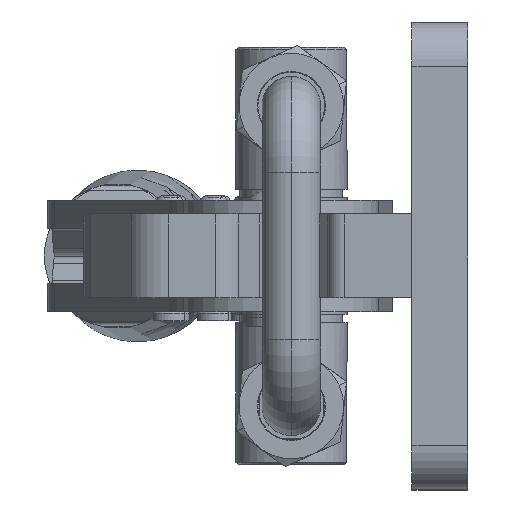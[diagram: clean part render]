
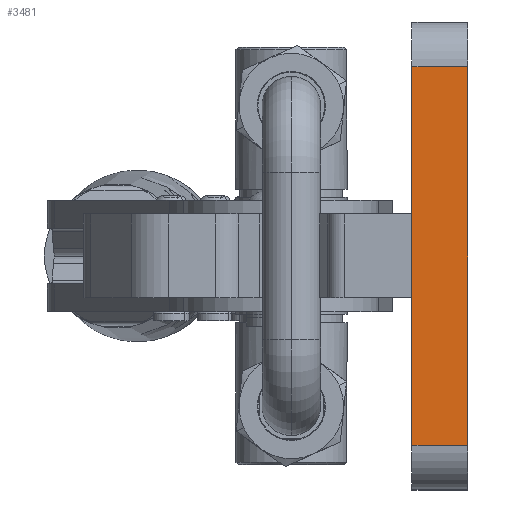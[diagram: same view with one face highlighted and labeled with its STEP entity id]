
A CAD part, left-side view. The second image highlights one B-rep face of the part: STEP entity #3481.
In plain terms, the highlighted planar face has unit normal (-1, 0, 0) as drawn and (1, 0, 0) by its records, which use the part's own axes.
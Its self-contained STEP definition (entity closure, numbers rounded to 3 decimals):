
#28 = ORIENTED_EDGE ( 'NONE', *, *, #15205, .T. ) ;
#2922 = DIRECTION ( 'NONE',  ( 0., 1., 0. ) ) ;
#3481 = ADVANCED_FACE ( 'NONE', ( #30391 ), #30574, .F. ) ;
#4077 = DIRECTION ( 'NONE',  ( -1., 0., 0. ) ) ;
#4454 = CARTESIAN_POINT ( 'NONE',  ( 31., 10., -42. ) ) ;
#4936 = CARTESIAN_POINT ( 'NONE',  ( 31., 10., -34. ) ) ;
#6020 = LINE ( 'NONE', #8743, #36358 ) ;
#8743 = CARTESIAN_POINT ( 'NONE',  ( 31., 10., -34. ) ) ;
#9169 = CARTESIAN_POINT ( 'NONE',  ( 31., 10., 34. ) ) ;
#13743 = ORIENTED_EDGE ( 'NONE', *, *, #26971, .F. ) ;
#13835 = EDGE_LOOP ( 'NONE', ( #28, #17718, #13743, #23004 ) ) ;
#15205 = EDGE_CURVE ( 'NONE', #29533, #29372, #27505, .T. ) ;
#15354 = LINE ( 'NONE', #9169, #33334 ) ;
#15458 = CARTESIAN_POINT ( 'NONE',  ( 31., 0., -34. ) ) ;
#15881 = DIRECTION ( 'NONE',  ( 0., 0., 1. ) ) ;
#16414 = VECTOR ( 'NONE', #24605, 1000. ) ;
#16957 = AXIS2_PLACEMENT_3D ( 'NONE', #4454, #4077, #15881 ) ;
#17718 = ORIENTED_EDGE ( 'NONE', *, *, #28929, .T. ) ;
#20275 = VERTEX_POINT ( 'NONE', #4936 ) ;
#20510 = LINE ( 'NONE', #20688, #36770 ) ;
#20688 = CARTESIAN_POINT ( 'NONE',  ( 31., 10., -42. ) ) ;
#21932 = CARTESIAN_POINT ( 'NONE',  ( 31., 10., 34. ) ) ;
#23004 = ORIENTED_EDGE ( 'NONE', *, *, #33380, .T. ) ;
#24605 = DIRECTION ( 'NONE',  ( 0., 0., -1. ) ) ;
#25277 = CARTESIAN_POINT ( 'NONE',  ( 31., 0., 34. ) ) ;
#26971 = EDGE_CURVE ( 'NONE', #29932, #20275, #20510, .T. ) ;
#27505 = LINE ( 'NONE', #33520, #16414 ) ;
#28929 = EDGE_CURVE ( 'NONE', #29372, #20275, #6020, .T. ) ;
#29372 = VERTEX_POINT ( 'NONE', #15458 ) ;
#29533 = VERTEX_POINT ( 'NONE', #25277 ) ;
#29932 = VERTEX_POINT ( 'NONE', #21932 ) ;
#30391 = FACE_OUTER_BOUND ( 'NONE', #13835, .T. ) ;
#30574 = PLANE ( 'NONE',  #16957 ) ;
#32709 = DIRECTION ( 'NONE',  ( 0., 0., -1. ) ) ;
#32954 = DIRECTION ( 'NONE',  ( 0., -1., 0. ) ) ;
#33334 = VECTOR ( 'NONE', #32954, 1000. ) ;
#33380 = EDGE_CURVE ( 'NONE', #29932, #29533, #15354, .T. ) ;
#33520 = CARTESIAN_POINT ( 'NONE',  ( 31., 0., -42. ) ) ;
#36358 = VECTOR ( 'NONE', #2922, 1000. ) ;
#36770 = VECTOR ( 'NONE', #32709, 1000. ) ;
